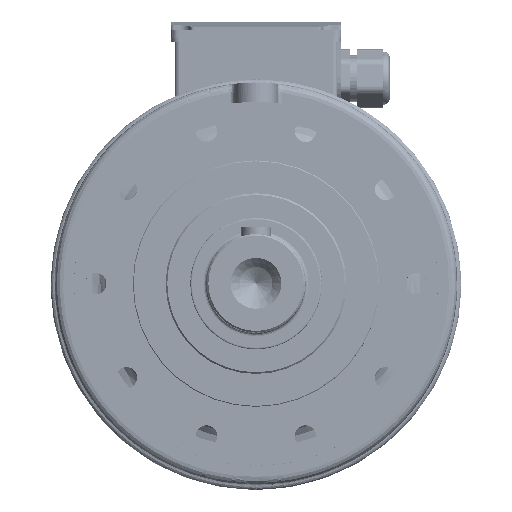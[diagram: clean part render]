
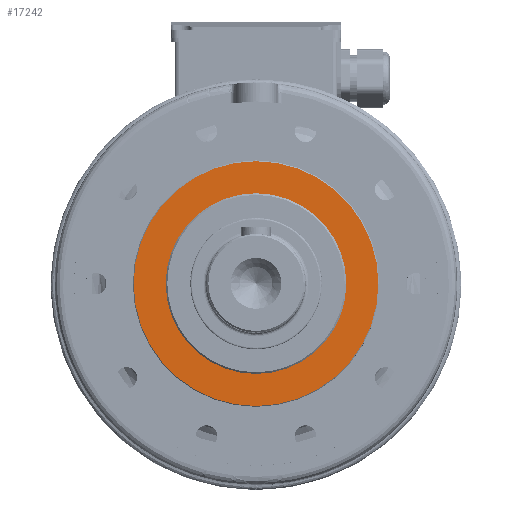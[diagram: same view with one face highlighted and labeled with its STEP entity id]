
A CAD part, top view. The second image highlights one B-rep face of the part: STEP entity #17242.
In plain terms, the highlighted planar face has unit normal (0, 0, 1).
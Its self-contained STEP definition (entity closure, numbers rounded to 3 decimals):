
#17242 = ADVANCED_FACE ( 'NONE', ( #96483, #96297 ), #215565, .T. ) ;
#18660 = VERTEX_POINT ( 'NONE', #37934 ) ;
#18749 = VERTEX_POINT ( 'NONE', #37977 ) ;
#18802 = VERTEX_POINT ( 'NONE', #38084 ) ;
#19035 = VERTEX_POINT ( 'NONE', #38179 ) ;
#37934 = CARTESIAN_POINT ( 'NONE',  ( 0., -74.5, 133.6 ) ) ;
#37977 = CARTESIAN_POINT ( 'NONE',  ( 55., 0., 133.6 ) ) ;
#38084 = CARTESIAN_POINT ( 'NONE',  ( 0., 74.5, 133.6 ) ) ;
#38179 = CARTESIAN_POINT ( 'NONE',  ( -55., 0., 133.6 ) ) ;
#54437 = EDGE_LOOP ( 'NONE', ( #102689, #102636 ) ) ;
#54448 = EDGE_LOOP ( 'NONE', ( #102666, #102677 ) ) ;
#96297 = FACE_BOUND ( 'NONE', #54437, .T. ) ;
#96483 = FACE_OUTER_BOUND ( 'NONE', #54448, .T. ) ;
#102636 = ORIENTED_EDGE ( 'NONE', *, *, #122562, .T. ) ;
#102666 = ORIENTED_EDGE ( 'NONE', *, *, #122618, .F. ) ;
#102677 = ORIENTED_EDGE ( 'NONE', *, *, #122593, .F. ) ;
#102689 = ORIENTED_EDGE ( 'NONE', *, *, #122561, .T. ) ;
#122561 = EDGE_CURVE ( 'NONE', #19035, #18749, #255420, .T. ) ;
#122562 = EDGE_CURVE ( 'NONE', #18749, #19035, #255546, .T. ) ;
#122593 = EDGE_CURVE ( 'NONE', #18660, #18802, #255515, .T. ) ;
#122618 = EDGE_CURVE ( 'NONE', #18802, #18660, #255340, .T. ) ;
#126282 = AXIS2_PLACEMENT_3D ( 'NONE', #215697, #215653, #215656 ) ;
#215565 = PLANE ( 'NONE',  #126282 ) ;
#215653 = DIRECTION ( 'NONE',  ( 0., 0., 1. ) ) ;
#215656 = DIRECTION ( 'NONE',  ( 0., -1., 0. ) ) ;
#215697 = CARTESIAN_POINT ( 'NONE',  ( 0., 74.5, 133.6 ) ) ;
#222942 = CARTESIAN_POINT ( 'NONE',  ( 0., 0., 133.6 ) ) ;
#222946 = CARTESIAN_POINT ( 'NONE',  ( 0., 0., 133.6 ) ) ;
#222980 = DIRECTION ( 'NONE',  ( 0., 0., -1. ) ) ;
#222988 = DIRECTION ( 'NONE',  ( -1., 0., 0. ) ) ;
#223018 = DIRECTION ( 'NONE',  ( 0., 0., -1. ) ) ;
#223072 = DIRECTION ( 'NONE',  ( -1., 0., 0. ) ) ;
#223149 = DIRECTION ( 'NONE',  ( 0., 1., 0. ) ) ;
#223170 = CARTESIAN_POINT ( 'NONE',  ( 0., 0., 133.6 ) ) ;
#223235 = DIRECTION ( 'NONE',  ( 0., 0., -1. ) ) ;
#223307 = CARTESIAN_POINT ( 'NONE',  ( 0., 0., 133.6 ) ) ;
#223311 = DIRECTION ( 'NONE',  ( 0., 1., 0. ) ) ;
#223345 = DIRECTION ( 'NONE',  ( 0., 0., -1. ) ) ;
#252604 = AXIS2_PLACEMENT_3D ( 'NONE', #223170, #223235, #223149 ) ;
#252740 = AXIS2_PLACEMENT_3D ( 'NONE', #222946, #223018, #223072 ) ;
#252743 = AXIS2_PLACEMENT_3D ( 'NONE', #222942, #222980, #222988 ) ;
#252774 = AXIS2_PLACEMENT_3D ( 'NONE', #223307, #223345, #223311 ) ;
#255340 = CIRCLE ( 'NONE', #252774, 74.5 ) ;
#255420 = CIRCLE ( 'NONE', #252740, 55. ) ;
#255515 = CIRCLE ( 'NONE', #252604, 74.5 ) ;
#255546 = CIRCLE ( 'NONE', #252743, 55. ) ;
